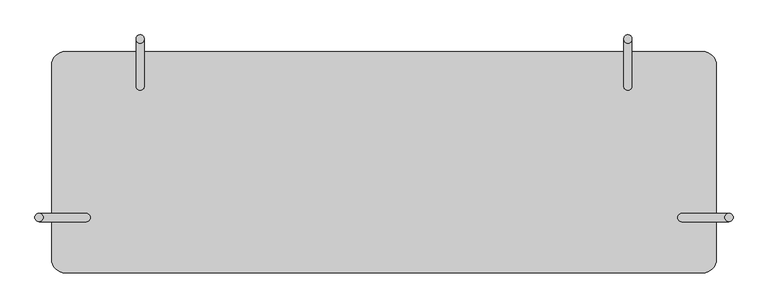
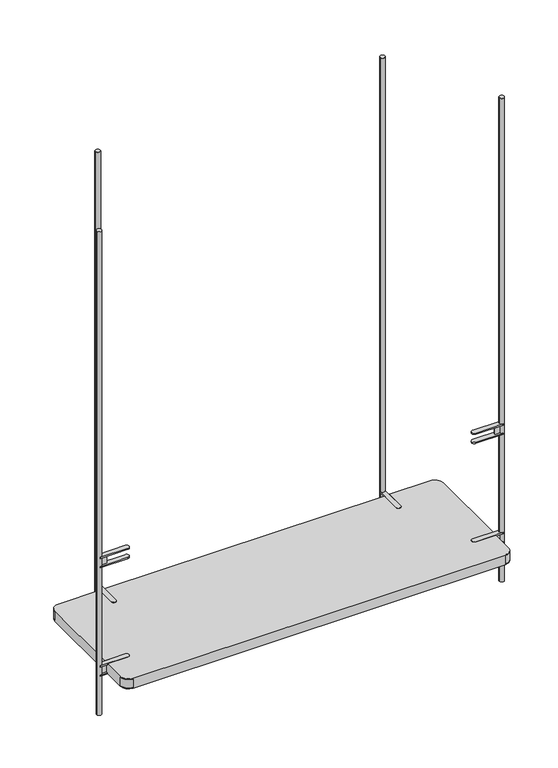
"""IFC4 building model written with IfcOpenShell, lengths in millimetres: furniture geometry, Shelving unit_Friendly : Shelving unit_Friendly."""

from ifc_helpers import new_model, si_unit, point, frame, frame_2d, origin, place, context, project, spatial, polyline, circle_curve, trimmed, segment, composite_curve, outline, extrude, source, transform, mapped, element, save
from ifc_brep_helpers import plane_surface, cylinder_surface, revolved_surface, advanced_brep


def furniture_1051e749(model_context):
    return source(origin(), model_context, "Body", "SolidModel", [
        extrude(outline(composite_curve([segment(trimmed(circle_curve(frame_2d((622.5, -330.0)), 7.5), [point((615.2715839, -328.0))], [point((615.2715839, -332.0))], True, "CARTESIAN"), True, "CONTINUOUS"), segment(polyline([(615.2715839, -332.0), (600.0, -332.0), (600.0, -328.0), (615.2715839, -328.0)]), True, "CONTINUOUS")], self_intersect=False)), frame((0.0, 0.0, 495.75), z_axis=(0.0, 0.0, 1.0), x_axis=(1.0, 0.0, 0.0)), (0.0, 0.0, 1.0), 26.0),
        extrude(outline(composite_curve([segment(polyline([(537.5, -322.5), (622.5, -322.5)]), True, "CONTINUOUS"), segment(trimmed(circle_curve(frame_2d((622.5, -330.0)), 7.5), [point((622.5, -322.5))], [point((622.5, -337.5))], True, "CARTESIAN"), True, "CONTINUOUS"), segment(polyline([(622.5, -337.5), (537.5, -337.5)]), True, "CONTINUOUS"), segment(trimmed(circle_curve(frame_2d((537.5, -330.0)), 7.5), [point((537.5, -337.5))], [point((537.5, -322.5))], False, "CARTESIAN"), True, "CONTINUOUS")], self_intersect=False)), frame((0.0, 0.0, 491.75), z_axis=(0.0, 0.0, 1.0), x_axis=(1.0, 0.0, 0.0)), (0.0, 0.0, 1.0), 4.0),
        extrude(outline(composite_curve([segment(polyline([(537.5, -322.5), (622.5, -322.5)]), True, "CONTINUOUS"), segment(trimmed(circle_curve(frame_2d((622.5, -330.0)), 7.5), [point((622.5, -322.5))], [point((622.5, -337.5))], True, "CARTESIAN"), True, "CONTINUOUS"), segment(polyline([(622.5, -337.5), (537.5, -337.5)]), True, "CONTINUOUS"), segment(trimmed(circle_curve(frame_2d((537.5, -330.0)), 7.5), [point((537.5, -337.5))], [point((537.5, -322.5))], False, "CARTESIAN"), True, "CONTINUOUS")], self_intersect=False)), frame((0.0, 0.0, 521.75), z_axis=(0.0, 0.0, 1.0), x_axis=(1.0, 0.0, 0.0)), (0.0, 0.0, 1.0), 4.0),
        extrude(outline(composite_curve([segment(polyline([(-615.2715839, -328.0), (-600.0, -328.0), (-600.0, -332.0), (-615.2715839, -332.0)]), True, "CONTINUOUS"), segment(trimmed(circle_curve(frame_2d((-622.5, -330.0)), 7.5), [point((-615.2715839, -332.0))], [point((-615.2715839, -328.0))], True, "CARTESIAN"), True, "CONTINUOUS")], self_intersect=False)), frame((0.0, 0.0, 495.75), z_axis=(0.0, 0.0, 1.0), x_axis=(1.0, 0.0, 0.0)), (0.0, 0.0, 1.0), 26.0),
        extrude(outline(composite_curve([segment(polyline([(-322.5, -537.5), (-322.5, -622.5)]), True, "CONTINUOUS"), segment(trimmed(circle_curve(frame_2d((-330.0, -622.5)), 7.5), [point((-322.5, -622.5))], [point((-337.5, -622.5))], True, "CARTESIAN"), True, "CONTINUOUS"), segment(polyline([(-337.5, -622.5), (-337.5, -537.5)]), True, "CONTINUOUS"), segment(trimmed(circle_curve(frame_2d((-330.0, -537.5)), 7.5), [point((-337.5, -537.5))], [point((-322.5, -537.5))], False, "CARTESIAN"), True, "CONTINUOUS")], self_intersect=False)), frame((0.0, 0.0, 495.75), z_axis=(0.0, 0.0, -1.0), x_axis=(0.0, 1.0, 0.0)), (0.0, 0.0, 1.0), 4.0),
        extrude(outline(composite_curve([segment(polyline([(-322.5, -537.5), (-322.5, -622.5)]), True, "CONTINUOUS"), segment(trimmed(circle_curve(frame_2d((-330.0, -622.5)), 7.5), [point((-322.5, -622.5))], [point((-337.5, -622.5))], True, "CARTESIAN"), True, "CONTINUOUS"), segment(polyline([(-337.5, -622.5), (-337.5, -537.5)]), True, "CONTINUOUS"), segment(trimmed(circle_curve(frame_2d((-330.0, -537.5)), 7.5), [point((-337.5, -537.5))], [point((-322.5, -537.5))], False, "CARTESIAN"), True, "CONTINUOUS")], self_intersect=False)), frame((0.0, 0.0, 525.75), z_axis=(0.0, 0.0, -1.0), x_axis=(0.0, 1.0, 0.0)), (0.0, 0.0, 1.0), 4.0),
        extrude(outline(composite_curve([segment(trimmed(circle_curve(frame_2d((440.0, -7.5)), 7.5), [point((438.0, -14.7284161))], [point((442.0, -14.7284161))], True, "CARTESIAN"), True, "CONTINUOUS"), segment(polyline([(442.0, -14.7284161), (442.0, -30.0), (438.0, -30.0), (438.0, -14.7284161)]), True, "CONTINUOUS")], self_intersect=False)), frame((0.0, 0.0, 141.0), z_axis=(0.0, 0.0, 1.0), x_axis=(1.0, 0.0, 0.0)), (0.0, 0.0, 1.0), 26.0),
        extrude(outline(composite_curve([segment(polyline([(432.5, -92.5), (432.5, -7.5)]), True, "CONTINUOUS"), segment(trimmed(circle_curve(frame_2d((440.0, -7.5)), 7.5), [point((432.5, -7.5))], [point((447.5, -7.5))], True, "CARTESIAN"), True, "CONTINUOUS"), segment(polyline([(447.5, -7.5), (447.5, -92.5)]), True, "CONTINUOUS"), segment(trimmed(circle_curve(frame_2d((440.0, -92.5)), 7.5), [point((447.5, -92.5))], [point((432.5, -92.5))], False, "CARTESIAN"), True, "CONTINUOUS")], self_intersect=False)), frame((0.0, 0.0, 137.0), z_axis=(0.0, 0.0, 1.0), x_axis=(1.0, 0.0, 0.0)), (0.0, 0.0, 1.0), 4.0),
        extrude(outline(composite_curve([segment(polyline([(432.5, -92.5), (432.5, -7.5)]), True, "CONTINUOUS"), segment(trimmed(circle_curve(frame_2d((440.0, -7.5)), 7.5), [point((432.5, -7.5))], [point((447.5, -7.5))], True, "CARTESIAN"), True, "CONTINUOUS"), segment(polyline([(447.5, -7.5), (447.5, -92.5)]), True, "CONTINUOUS"), segment(trimmed(circle_curve(frame_2d((440.0, -92.5)), 7.5), [point((447.5, -92.5))], [point((432.5, -92.5))], False, "CARTESIAN"), True, "CONTINUOUS")], self_intersect=False)), frame((0.0, 0.0, 167.0), z_axis=(0.0, 0.0, 1.0), x_axis=(1.0, 0.0, 0.0)), (0.0, 0.0, 1.0), 4.0),
        extrude(outline(composite_curve([segment(polyline([(-438.0, -14.7284161), (-438.0, -30.0), (-442.0, -30.0), (-442.0, -14.7284161)]), True, "CONTINUOUS"), segment(trimmed(circle_curve(frame_2d((-440.0, -7.5)), 7.5), [point((-442.0, -14.7284161))], [point((-438.0, -14.7284161))], True, "CARTESIAN"), True, "CONTINUOUS")], self_intersect=False)), frame((0.0, 0.0, 141.0), z_axis=(0.0, 0.0, 1.0), x_axis=(1.0, 0.0, 0.0)), (0.0, 0.0, 1.0), 26.0),
        extrude(outline(composite_curve([segment(polyline([(-92.5, -432.5), (-7.5, -432.5)]), True, "CONTINUOUS"), segment(trimmed(circle_curve(frame_2d((-7.5, -440.0)), 7.5), [point((-7.5, -432.5))], [point((-7.5, -447.5))], True, "CARTESIAN"), True, "CONTINUOUS"), segment(polyline([(-7.5, -447.5), (-92.5, -447.5)]), True, "CONTINUOUS"), segment(trimmed(circle_curve(frame_2d((-92.5, -440.0)), 7.5), [point((-92.5, -447.5))], [point((-92.5, -432.5))], False, "CARTESIAN"), True, "CONTINUOUS")], self_intersect=False)), frame((0.0, 0.0, 141.0), z_axis=(0.0, 0.0, -1.0), x_axis=(0.0, 1.0, 0.0)), (0.0, 0.0, 1.0), 4.0),
        extrude(outline(composite_curve([segment(polyline([(-92.5, -432.5), (-7.5, -432.5)]), True, "CONTINUOUS"), segment(trimmed(circle_curve(frame_2d((-7.5, -440.0)), 7.5), [point((-7.5, -432.5))], [point((-7.5, -447.5))], True, "CARTESIAN"), True, "CONTINUOUS"), segment(polyline([(-7.5, -447.5), (-92.5, -447.5)]), True, "CONTINUOUS"), segment(trimmed(circle_curve(frame_2d((-92.5, -440.0)), 7.5), [point((-92.5, -447.5))], [point((-92.5, -432.5))], False, "CARTESIAN"), True, "CONTINUOUS")], self_intersect=False)), frame((0.0, 0.0, 171.0), z_axis=(0.0, 0.0, -1.0), x_axis=(0.0, 1.0, 0.0)), (0.0, 0.0, 1.0), 4.0),
        extrude(outline(composite_curve([segment(trimmed(circle_curve(frame_2d((622.5, -330.0)), 7.5), [point((615.2715839, -328.0))], [point((615.2715839, -332.0))], True, "CARTESIAN"), True, "CONTINUOUS"), segment(polyline([(615.2715839, -332.0), (600.0, -332.0), (600.0, -328.0), (615.2715839, -328.0)]), True, "CONTINUOUS")], self_intersect=False)), frame((0.0, 0.0, 141.0), z_axis=(0.0, 0.0, 1.0), x_axis=(1.0, 0.0, 0.0)), (0.0, 0.0, 1.0), 26.0),
        extrude(outline(composite_curve([segment(polyline([(537.5, -322.5), (622.5, -322.5)]), True, "CONTINUOUS"), segment(trimmed(circle_curve(frame_2d((622.5, -330.0)), 7.5), [point((622.5, -322.5))], [point((622.5, -337.5))], True, "CARTESIAN"), True, "CONTINUOUS"), segment(polyline([(622.5, -337.5), (537.5, -337.5)]), True, "CONTINUOUS"), segment(trimmed(circle_curve(frame_2d((537.5, -330.0)), 7.5), [point((537.5, -337.5))], [point((537.5, -322.5))], False, "CARTESIAN"), True, "CONTINUOUS")], self_intersect=False)), frame((0.0, 0.0, 137.0), z_axis=(0.0, 0.0, 1.0), x_axis=(1.0, 0.0, 0.0)), (0.0, 0.0, 1.0), 4.0),
        extrude(outline(composite_curve([segment(polyline([(537.5, -322.5), (622.5, -322.5)]), True, "CONTINUOUS"), segment(trimmed(circle_curve(frame_2d((622.5, -330.0)), 7.5), [point((622.5, -322.5))], [point((622.5, -337.5))], True, "CARTESIAN"), True, "CONTINUOUS"), segment(polyline([(622.5, -337.5), (537.5, -337.5)]), True, "CONTINUOUS"), segment(trimmed(circle_curve(frame_2d((537.5, -330.0)), 7.5), [point((537.5, -337.5))], [point((537.5, -322.5))], False, "CARTESIAN"), True, "CONTINUOUS")], self_intersect=False)), frame((0.0, 0.0, 167.0), z_axis=(0.0, 0.0, 1.0), x_axis=(1.0, 0.0, 0.0)), (0.0, 0.0, 1.0), 4.0),
        extrude(outline(composite_curve([segment(polyline([(-615.2715839, -328.0), (-600.0, -328.0), (-600.0, -332.0), (-615.2715839, -332.0)]), True, "CONTINUOUS"), segment(trimmed(circle_curve(frame_2d((-622.5, -330.0)), 7.5), [point((-615.2715839, -332.0))], [point((-615.2715839, -328.0))], True, "CARTESIAN"), True, "CONTINUOUS")], self_intersect=False)), frame((0.0, 0.0, 141.0), z_axis=(0.0, 0.0, 1.0), x_axis=(1.0, 0.0, 0.0)), (0.0, 0.0, 1.0), 26.0),
        advanced_brep(
        [(600.0, -337.5, 167.0), (600.0, -322.5, 167.0), (537.5, -322.5, 167.0), (537.5, -337.5, 167.0), (447.5, -30.0, 167.0), (432.5, -30.0, 167.0), (432.5, -92.5, 167.0), (447.5, -92.5, 167.0), (-432.5, -30.0, 167.0), (-447.5, -30.0, 167.0), (-447.5, -92.5, 167.0), (-432.5, -92.5, 167.0), (-600.0, -322.5, 167.0), (-600.0, -337.5, 167.0), (-537.5, -337.5, 167.0), (-537.5, -322.5, 167.0), (-600.0, -337.5, 141.0), (-600.0, -322.5, 141.0), (-537.5, -322.5, 141.0), (-537.5, -337.5, 141.0), (432.5, -30.0, 141.0), (447.5, -30.0, 141.0), (447.5, -92.5, 141.0), (432.5, -92.5, 141.0), (-447.5, -30.0, 141.0), (-432.5, -30.0, 141.0), (-432.5, -92.5, 141.0), (-447.5, -92.5, 141.0), (600.0, -322.5, 141.0), (600.0, -337.5, 141.0), (537.5, -337.5, 141.0), (537.5, -322.5, 141.0), (-600.0, -405.0, 167.0), (-600.0, -405.0, 141.0), (-575.0, -430.0, 141.0), (-575.0, -430.0, 167.0), (-575.0, -430.0, 138.0), (575.0, -430.0, 138.0), (575.0, -430.0, 141.0), (575.0, -430.0, 167.0), (575.0, -430.0, 170.0), (-575.0, -430.0, 170.0), (600.0, -405.0, 141.0), (600.0, -405.0, 167.0), (600.0, -405.0, 138.0), (600.0, -337.5, 138.0), (600.0, -322.5, 138.0), (600.0, -55.0, 138.0), (600.0, -55.0, 141.0), (600.0, -55.0, 167.0), (600.0, -55.0, 170.0), (600.0, -322.5, 170.0), (600.0, -337.5, 170.0), (600.0, -405.0, 170.0), (575.0, -30.0, 141.0), (575.0, -30.0, 167.0), (575.0, -30.0, 138.0), (447.5, -30.0, 138.0), (432.5, -30.0, 138.0), (-432.5, -30.0, 138.0), (-447.5, -30.0, 138.0), (-575.0, -30.0, 138.0), (-575.0, -30.0, 141.0), (-575.0, -30.0, 167.0), (-575.0, -30.0, 170.0), (-447.5, -30.0, 170.0), (-432.5, -30.0, 170.0), (432.5, -30.0, 170.0), (447.5, -30.0, 170.0), (575.0, -30.0, 170.0), (-600.0, -55.0, 141.0), (-600.0, -55.0, 167.0), (-600.0, -405.0, 170.0), (-600.0, -337.5, 170.0), (-600.0, -322.5, 170.0), (-600.0, -55.0, 170.0), (-600.0, -55.0, 138.0), (-600.0, -322.5, 138.0), (-600.0, -337.5, 138.0), (-600.0, -405.0, 138.0), (537.5, -337.5, 170.0), (537.5, -322.5, 170.0), (447.5, -92.5, 170.0), (432.5, -92.5, 170.0), (-432.5, -92.5, 170.0), (-447.5, -92.5, 170.0), (-537.5, -322.5, 170.0), (-537.5, -337.5, 170.0), (-537.5, -337.5, 138.0), (-537.5, -322.5, 138.0), (-447.5, -92.5, 138.0), (-432.5, -92.5, 138.0), (432.5, -92.5, 138.0), (447.5, -92.5, 138.0), (537.5, -322.5, 138.0), (537.5, -337.5, 138.0)],
        [
            (0, 1),
            (1, 2),
            (2, 3, circle_curve(frame((537.5, -330.0, 167.0), z_axis=(0.0, 0.0, 1.0), x_axis=(1.0, 0.0, 0.0)), 7.5)),
            (3, 0),
            (4, 5),
            (5, 6),
            (6, 7, circle_curve(frame((440.0, -92.5, 167.0), z_axis=(0.0, 0.0, 1.0), x_axis=(1.0, 0.0, 0.0)), 7.5)),
            (7, 4),
            (8, 9),
            (9, 10),
            (10, 11, circle_curve(frame((-440.0, -92.5, 167.0), z_axis=(0.0, 0.0, 1.0), x_axis=(1.0, 0.0, 0.0)), 7.5)),
            (11, 8),
            (12, 13),
            (13, 14),
            (14, 15, circle_curve(frame((-537.5, -330.0, 167.0), z_axis=(0.0, 0.0, 1.0), x_axis=(1.0, 0.0, 0.0)), 7.5)),
            (15, 12),
            (16, 17),
            (17, 18),
            (18, 19, circle_curve(frame((-537.5, -330.0, 141.0), z_axis=(0.0, 0.0, -1.0), x_axis=(1.0, 0.0, 0.0)), 7.5)),
            (19, 16),
            (20, 21),
            (21, 22),
            (22, 23, circle_curve(frame((440.0, -92.5, 141.0), z_axis=(0.0, 0.0, -1.0), x_axis=(1.0, 0.0, 0.0)), 7.5)),
            (23, 20),
            (24, 25),
            (25, 26),
            (26, 27, circle_curve(frame((-440.0, -92.5, 141.0), z_axis=(0.0, 0.0, -1.0), x_axis=(1.0, 0.0, 0.0)), 7.5)),
            (27, 24),
            (28, 29),
            (29, 30),
            (30, 31, circle_curve(frame((537.5, -330.0, 141.0), z_axis=(0.0, 0.0, -1.0), x_axis=(1.0, 0.0, 0.0)), 7.5)),
            (31, 28),
            (32, 33),
            (33, 34, circle_curve(frame((-575.0, -405.0, 141.0), z_axis=(0.0, 0.0, 1.0), x_axis=(1.0, 0.0, 0.0)), 25.0)),
            (34, 35),
            (35, 32, circle_curve(frame((-575.0, -405.0, 167.0), z_axis=(0.0, 0.0, -1.0), x_axis=(1.0, 0.0, 0.0)), 25.0)),
            (34, 36),
            (36, 37),
            (37, 38),
            (38, 39),
            (39, 40),
            (40, 41),
            (41, 35),
            (38, 42, circle_curve(frame((575.0, -405.0, 141.0), z_axis=(0.0, 0.0, 1.0), x_axis=(1.0, 0.0, 0.0)), 25.0)),
            (42, 43),
            (43, 39, circle_curve(frame((575.0, -405.0, 167.0), z_axis=(0.0, 0.0, -1.0), x_axis=(1.0, 0.0, 0.0)), 25.0)),
            (42, 44),
            (44, 45),
            (45, 29),
            (28, 46),
            (46, 47),
            (47, 48),
            (48, 49),
            (49, 50),
            (50, 51),
            (51, 1),
            (0, 52),
            (52, 53),
            (53, 43),
            (48, 54, circle_curve(frame((575.0, -55.0, 141.0), z_axis=(0.0, 0.0, 1.0), x_axis=(1.0, 0.0, 0.0)), 25.0)),
            (54, 55),
            (55, 49, circle_curve(frame((575.0, -55.0, 167.0), z_axis=(0.0, 0.0, -1.0), x_axis=(1.0, 0.0, 0.0)), 25.0)),
            (54, 56),
            (56, 57),
            (57, 21),
            (20, 58),
            (58, 59),
            (59, 25),
            (24, 60),
            (60, 61),
            (61, 62),
            (62, 63),
            (63, 64),
            (64, 65),
            (65, 9),
            (8, 66),
            (66, 67),
            (67, 5),
            (4, 68),
            (68, 69),
            (69, 55),
            (62, 70, circle_curve(frame((-575.0, -55.0, 141.0), z_axis=(0.0, 0.0, 1.0), x_axis=(1.0, 0.0, 0.0)), 25.0)),
            (70, 71),
            (71, 63, circle_curve(frame((-575.0, -55.0, 167.0), z_axis=(0.0, 0.0, -1.0), x_axis=(1.0, 0.0, 0.0)), 25.0)),
            (32, 72),
            (72, 73),
            (73, 13),
            (12, 74),
            (74, 75),
            (75, 71),
            (70, 76),
            (76, 77),
            (77, 17),
            (16, 78),
            (78, 79),
            (79, 33),
            (40, 53, circle_curve(frame((575.0, -405.0, 170.0), z_axis=(0.0, 0.0, 1.0), x_axis=(1.0, 0.0, 0.0)), 25.0)),
            (52, 80),
            (80, 81, circle_curve(frame((537.5, -330.0, 170.0), z_axis=(0.0, 0.0, -1.0), x_axis=(1.0, 0.0, 0.0)), 7.5)),
            (81, 51),
            (50, 69, circle_curve(frame((575.0, -55.0, 170.0), z_axis=(0.0, 0.0, 1.0), x_axis=(1.0, 0.0, 0.0)), 25.0)),
            (68, 82),
            (82, 83, circle_curve(frame((440.0, -92.5, 170.0), z_axis=(0.0, 0.0, -1.0), x_axis=(1.0, 0.0, 0.0)), 7.5)),
            (83, 67),
            (66, 84),
            (84, 85, circle_curve(frame((-440.0, -92.5, 170.0), z_axis=(0.0, 0.0, -1.0), x_axis=(1.0, 0.0, 0.0)), 7.5)),
            (85, 65),
            (64, 75, circle_curve(frame((-575.0, -55.0, 170.0), z_axis=(0.0, 0.0, 1.0), x_axis=(1.0, 0.0, 0.0)), 25.0)),
            (74, 86),
            (86, 87, circle_curve(frame((-537.5, -330.0, 170.0), z_axis=(0.0, 0.0, -1.0), x_axis=(1.0, 0.0, 0.0)), 7.5)),
            (87, 73),
            (72, 41, circle_curve(frame((-575.0, -405.0, 170.0), z_axis=(0.0, 0.0, 1.0), x_axis=(1.0, 0.0, 0.0)), 25.0)),
            (15, 86),
            (87, 14),
            (3, 80),
            (2, 81),
            (7, 82),
            (6, 83),
            (11, 84),
            (10, 85),
            (36, 79, circle_curve(frame((-575.0, -405.0, 138.0), z_axis=(0.0, 0.0, -1.0), x_axis=(1.0, 0.0, 0.0)), 25.0)),
            (78, 88),
            (88, 89, circle_curve(frame((-537.5, -330.0, 138.0), z_axis=(0.0, 0.0, 1.0), x_axis=(1.0, 0.0, 0.0)), 7.5)),
            (89, 77),
            (76, 61, circle_curve(frame((-575.0, -55.0, 138.0), z_axis=(0.0, 0.0, -1.0), x_axis=(1.0, 0.0, 0.0)), 25.0)),
            (60, 90),
            (90, 91, circle_curve(frame((-440.0, -92.5, 138.0), z_axis=(0.0, 0.0, 1.0), x_axis=(1.0, 0.0, 0.0)), 7.5)),
            (91, 59),
            (58, 92),
            (92, 93, circle_curve(frame((440.0, -92.5, 138.0), z_axis=(0.0, 0.0, 1.0), x_axis=(1.0, 0.0, 0.0)), 7.5)),
            (93, 57),
            (56, 47, circle_curve(frame((575.0, -55.0, 138.0), z_axis=(0.0, 0.0, -1.0), x_axis=(1.0, 0.0, 0.0)), 25.0)),
            (46, 94),
            (94, 95, circle_curve(frame((537.5, -330.0, 138.0), z_axis=(0.0, 0.0, 1.0), x_axis=(1.0, 0.0, 0.0)), 7.5)),
            (95, 45),
            (44, 37, circle_curve(frame((575.0, -405.0, 138.0), z_axis=(0.0, 0.0, -1.0), x_axis=(1.0, 0.0, 0.0)), 25.0)),
            (89, 18),
            (19, 88),
            (95, 30),
            (94, 31),
            (93, 22),
            (92, 23),
            (91, 26),
            (90, 27),
        ],
        [
            plane_surface(frame((-550.0, -405.0, 167.0), z_axis=(0.0, 0.0, 1.0), x_axis=(0.0, 1.0, 0.0))),
            plane_surface(frame((-550.0, -405.0, 141.0), z_axis=(0.0, 0.0, -1.0), x_axis=(0.0, -1.0, 0.0))),
            cylinder_surface(frame((-575.0, -405.0, 141.0), z_axis=(0.0, 0.0, 1.0), x_axis=(1.0, 0.0, 0.0)), 25.0),
            plane_surface(frame((-575.0, -430.0, 167.0), z_axis=(0.0, -1.0, 0.0), x_axis=(0.0, 0.0, -1.0))),
            cylinder_surface(frame((575.0, -405.0, 141.0), z_axis=(0.0, 0.0, 1.0), x_axis=(1.0, 0.0, 0.0)), 25.0),
            plane_surface(frame((600.0, -405.0, 167.0), z_axis=(1.0, 0.0, 0.0), x_axis=(0.0, 0.0, -1.0))),
            cylinder_surface(frame((575.0, -55.0, 141.0), z_axis=(0.0, 0.0, 1.0), x_axis=(1.0, 0.0, 0.0)), 25.0),
            plane_surface(frame((575.0, -30.0, 167.0), z_axis=(0.0, 1.0, 0.0), x_axis=(0.0, 0.0, -1.0))),
            cylinder_surface(frame((-575.0, -55.0, 141.0), z_axis=(0.0, 0.0, 1.0), x_axis=(1.0, 0.0, 0.0)), 25.0),
            plane_surface(frame((-600.0, -55.0, 167.0), z_axis=(-1.0, 0.0, 0.0), x_axis=(0.0, 0.0, -1.0))),
            plane_surface(frame((1453.4151526, -430.0, 170.0), z_axis=(0.0, 0.0, 1.0), x_axis=(1.0, 0.0, 0.0))),
            cylinder_surface(frame((575.0, -405.0, 167.0), z_axis=(0.0, 0.0, 1.0), x_axis=(1.0, 0.0, 0.0)), 25.0),
            cylinder_surface(frame((575.0, -55.0, 167.0), z_axis=(0.0, 0.0, 1.0), x_axis=(1.0, 0.0, 0.0)), 25.0),
            cylinder_surface(frame((-575.0, -55.0, 167.0), z_axis=(0.0, 0.0, 1.0), x_axis=(1.0, 0.0, 0.0)), 25.0),
            cylinder_surface(frame((-575.0, -405.0, 167.0), z_axis=(0.0, 0.0, 1.0), x_axis=(1.0, 0.0, 0.0)), 25.0),
            plane_surface(frame((-600.0, -322.5, 170.0), z_axis=(0.0, -1.0, 0.0), x_axis=(0.0, 0.0, -1.0))),
            plane_surface(frame((-537.5, -337.5, 170.0), z_axis=(0.0, 1.0, 0.0), x_axis=(0.0, 0.0, -1.0))),
            revolved_surface(polyline([(-530.0, -330.0, 167.0), (-530.0, -330.0, 170.0)]), (-537.5, -330.0, 167.0), (0.0, 0.0, -1.0)),
            plane_surface(frame((600.0, -337.5, 170.0), z_axis=(0.0, 1.0, 0.0), x_axis=(0.0, 0.0, -1.0))),
            revolved_surface(polyline([(545.0, -330.0, 167.0), (545.0, -330.0, 170.0)]), (537.5, -330.0, 167.0), (0.0, 0.0, -1.0)),
            plane_surface(frame((537.5, -322.5, 170.0), z_axis=(0.0, -1.0, 0.0), x_axis=(0.0, 0.0, -1.0))),
            plane_surface(frame((447.5, -30.0, 170.0), z_axis=(-1.0, 0.0, 0.0), x_axis=(0.0, 0.0, -1.0))),
            revolved_surface(polyline([(447.5, -92.5, 167.0), (447.5, -92.5, 170.0)]), (440.0, -92.5, 167.0), (0.0, 0.0, -1.0)),
            plane_surface(frame((432.5, -92.5, 170.0), z_axis=(1.0, 0.0, 0.0), x_axis=(0.0, 0.0, -1.0))),
            plane_surface(frame((-432.5, -30.0, 170.0), z_axis=(-1.0, 0.0, 0.0), x_axis=(0.0, 0.0, -1.0))),
            revolved_surface(polyline([(-432.5, -92.5, 167.0), (-432.5, -92.5, 170.0)]), (-440.0, -92.5, 167.0), (0.0, 0.0, -1.0)),
            plane_surface(frame((-447.5, -92.5, 170.0), z_axis=(1.0, 0.0, 0.0), x_axis=(0.0, 0.0, -1.0))),
            plane_surface(frame((1453.4151526, -430.0, 138.0), z_axis=(0.0, 0.0, -1.0), x_axis=(-1.0, 0.0, 0.0))),
            cylinder_surface(frame((575.0, -405.0, 138.0), z_axis=(0.0, 0.0, 1.0), x_axis=(1.0, 0.0, 0.0)), 25.0),
            cylinder_surface(frame((575.0, -55.0, 138.0), z_axis=(0.0, 0.0, 1.0), x_axis=(1.0, 0.0, 0.0)), 25.0),
            cylinder_surface(frame((-575.0, -55.0, 138.0), z_axis=(0.0, 0.0, 1.0), x_axis=(1.0, 0.0, 0.0)), 25.0),
            cylinder_surface(frame((-575.0, -405.0, 138.0), z_axis=(0.0, 0.0, 1.0), x_axis=(1.0, 0.0, 0.0)), 25.0),
            plane_surface(frame((-600.0, -322.5, 141.0), z_axis=(0.0, -1.0, 0.0), x_axis=(0.0, 0.0, -1.0))),
            plane_surface(frame((-537.5, -337.5, 141.0), z_axis=(0.0, 1.0, 0.0), x_axis=(0.0, 0.0, -1.0))),
            revolved_surface(polyline([(-530.0, -330.0, 138.0), (-530.0, -330.0, 141.0)]), (-537.5, -330.0, 138.0), (0.0, 0.0, -1.0)),
            plane_surface(frame((600.0, -337.5, 141.0), z_axis=(0.0, 1.0, 0.0), x_axis=(0.0, 0.0, -1.0))),
            revolved_surface(polyline([(545.0, -330.0, 138.0), (545.0, -330.0, 141.0)]), (537.5, -330.0, 138.0), (0.0, 0.0, -1.0)),
            plane_surface(frame((537.5, -322.5, 141.0), z_axis=(0.0, -1.0, 0.0), x_axis=(0.0, 0.0, -1.0))),
            plane_surface(frame((447.5, -30.0, 141.0), z_axis=(-1.0, 0.0, 0.0), x_axis=(0.0, 0.0, -1.0))),
            revolved_surface(polyline([(447.5, -92.5, 138.0), (447.5, -92.5, 141.0)]), (440.0, -92.5, 138.0), (0.0, 0.0, -1.0)),
            plane_surface(frame((432.5, -92.5, 141.0), z_axis=(1.0, 0.0, 0.0), x_axis=(0.0, 0.0, -1.0))),
            plane_surface(frame((-432.5, -30.0, 141.0), z_axis=(-1.0, 0.0, 0.0), x_axis=(0.0, 0.0, -1.0))),
            revolved_surface(polyline([(-432.5, -92.5, 138.0), (-432.5, -92.5, 141.0)]), (-440.0, -92.5, 138.0), (0.0, 0.0, -1.0)),
            plane_surface(frame((-447.5, -92.5, 141.0), z_axis=(1.0, 0.0, 0.0), x_axis=(0.0, 0.0, -1.0))),
        ],
        [
            (0, [[1, 2, 3, 4]]),
            (0, [[5, 6, 7, 8]]),
            (0, [[9, 10, 11, 12]]),
            (0, [[13, 14, 15, 16]]),
            (1, [[17, 18, 19, 20]]),
            (1, [[21, 22, 23, 24]]),
            (1, [[25, 26, 27, 28]]),
            (1, [[29, 30, 31, 32]]),
            (2, [[33, 34, 35, 36]]),
            (3, [[-35, 37, 38, 39, 40, 41, 42, 43]]),
            (4, [[-40, 44, 45, 46]]),
            (5, [[-45, 47, 48, 49, -29, 50, 51, 52, 53, 54, 55, 56, -1, 57, 58, 59]]),
            (6, [[-53, 60, 61, 62]]),
            (7, [[-61, 63, 64, 65, -21, 66, 67, 68, -25, 69, 70, 71, 72, 73, 74, 75, -9, 76, 77, 78, -5, 79, 80, 81]]),
            (8, [[-72, 82, 83, 84]]),
            (9, [[-33, 85, 86, 87, -13, 88, 89, 90, -83, 91, 92, 93, -17, 94, 95, 96]]),
            (10, [[-42, 97, -58, 98, 99, 100, -55, 101, -80, 102, 103, 104, -77, 105, 106, 107, -74, 108, -89, 109, 110, 111, -86, 112]]),
            (11, [[-97, -41, -46, -59]]),
            (12, [[-101, -54, -62, -81]]),
            (13, [[-108, -73, -84, -90]]),
            (14, [[-112, -85, -36, -43]]),
            (15, [[-109, -88, -16, 113]]),
            (16, [[-111, 114, -14, -87]]),
            (17, [[-110, -113, -15, -114]]),
            (18, [[-98, -57, -4, 115]]),
            (19, [[-99, -115, -3, 116]]),
            (20, [[-100, -116, -2, -56]]),
            (21, [[-102, -79, -8, 117]]),
            (22, [[-103, -117, -7, 118]]),
            (23, [[-104, -118, -6, -78]]),
            (24, [[-105, -76, -12, 119]]),
            (25, [[-106, -119, -11, 120]]),
            (26, [[-107, -120, -10, -75]]),
            (27, [[121, -95, 122, 123, 124, -92, 125, -70, 126, 127, 128, -67, 129, 130, 131, -64, 132, -51, 133, 134, 135, -48, 136, -38]]),
            (28, [[-136, -47, -44, -39]]),
            (29, [[-132, -63, -60, -52]]),
            (30, [[-125, -91, -82, -71]]),
            (31, [[-121, -37, -34, -96]]),
            (32, [[-124, 137, -18, -93]]),
            (33, [[-122, -94, -20, 138]]),
            (34, [[-123, -138, -19, -137]]),
            (35, [[-135, 139, -30, -49]]),
            (36, [[-134, 140, -31, -139]]),
            (37, [[-133, -50, -32, -140]]),
            (38, [[-131, 141, -22, -65]]),
            (39, [[-130, 142, -23, -141]]),
            (40, [[-129, -66, -24, -142]]),
            (41, [[-128, 143, -26, -68]]),
            (42, [[-127, 144, -27, -143]]),
            (43, [[-126, -69, -28, -144]]),
        ],
    ),
        extrude(outline(composite_curve([segment(polyline([(-322.5, -537.5), (-322.5, -622.5)]), True, "CONTINUOUS"), segment(trimmed(circle_curve(frame_2d((-330.0, -622.5)), 7.5), [point((-322.5, -622.5))], [point((-337.5, -622.5))], True, "CARTESIAN"), True, "CONTINUOUS"), segment(polyline([(-337.5, -622.5), (-337.5, -537.5)]), True, "CONTINUOUS"), segment(trimmed(circle_curve(frame_2d((-330.0, -537.5)), 7.5), [point((-337.5, -537.5))], [point((-322.5, -537.5))], False, "CARTESIAN"), True, "CONTINUOUS")], self_intersect=False)), frame((0.0, 0.0, 141.0), z_axis=(0.0, 0.0, -1.0), x_axis=(0.0, 1.0, 0.0)), (0.0, 0.0, 1.0), 4.0),
        extrude(outline(composite_curve([segment(polyline([(-322.5, -537.5), (-322.5, -622.5)]), True, "CONTINUOUS"), segment(trimmed(circle_curve(frame_2d((-330.0, -622.5)), 7.5), [point((-322.5, -622.5))], [point((-337.5, -622.5))], True, "CARTESIAN"), True, "CONTINUOUS"), segment(polyline([(-337.5, -622.5), (-337.5, -537.5)]), True, "CONTINUOUS"), segment(trimmed(circle_curve(frame_2d((-330.0, -537.5)), 7.5), [point((-337.5, -537.5))], [point((-322.5, -537.5))], False, "CARTESIAN"), True, "CONTINUOUS")], self_intersect=False)), frame((0.0, 0.0, 171.0), z_axis=(0.0, 0.0, -1.0), x_axis=(0.0, 1.0, 0.0)), (0.0, 0.0, 1.0), 4.0),
        extrude(outline(composite_curve([segment(trimmed(circle_curve(frame_2d((-440.0, -7.5)), 7.5), [point((-447.5, -7.5))], [point((-432.5, -7.5))], False, "CARTESIAN"), True, "CONTINUOUS"), segment(trimmed(circle_curve(frame_2d((-440.0, -7.5)), 7.5), [point((-432.5, -7.5))], [point((-447.5, -7.5))], False, "CARTESIAN"), True, "CONTINUOUS")], self_intersect=False)), frame((0.0, 0.0, 10.0), z_axis=(0.0, 0.0, 1.0), x_axis=(1.0, 0.0, 0.0)), (0.0, 0.0, 1.0), 1580.0),
        extrude(outline(composite_curve([segment(trimmed(circle_curve(frame_2d((440.0, -7.5)), 7.5), [point((432.5, -7.5))], [point((447.5, -7.5))], False, "CARTESIAN"), True, "CONTINUOUS"), segment(trimmed(circle_curve(frame_2d((440.0, -7.5)), 7.5), [point((447.5, -7.5))], [point((432.5, -7.5))], False, "CARTESIAN"), True, "CONTINUOUS")], self_intersect=False)), frame((0.0, 0.0, 10.0), z_axis=(0.0, 0.0, 1.0), x_axis=(1.0, 0.0, 0.0)), (0.0, 0.0, 1.0), 1580.0),
        extrude(outline(composite_curve([segment(trimmed(circle_curve(frame_2d((-622.5, -330.0)), 7.5), [point((-630.0, -330.0))], [point((-615.0, -330.0))], False, "CARTESIAN"), True, "CONTINUOUS"), segment(trimmed(circle_curve(frame_2d((-622.5, -330.0)), 7.5), [point((-615.0, -330.0))], [point((-630.0, -330.0))], False, "CARTESIAN"), True, "CONTINUOUS")], self_intersect=False)), frame((0.0, 0.0, 10.0), z_axis=(0.0, 0.0, 1.0), x_axis=(1.0, 0.0, 0.0)), (0.0, 0.0, 1.0), 1580.0),
        extrude(outline(composite_curve([segment(trimmed(circle_curve(frame_2d((622.5, -330.0)), 7.5), [point((615.0, -330.0))], [point((630.0, -330.0))], False, "CARTESIAN"), True, "CONTINUOUS"), segment(trimmed(circle_curve(frame_2d((622.5, -330.0)), 7.5), [point((630.0, -330.0))], [point((615.0, -330.0))], False, "CARTESIAN"), True, "CONTINUOUS")], self_intersect=False)), frame((0.0, 0.0, 10.0), z_axis=(0.0, 0.0, 1.0), x_axis=(1.0, 0.0, 0.0)), (0.0, 0.0, 1.0), 1580.0),
    ])


if __name__ == "__main__":
    model = new_model("IFC4")
    model_context = context("Model", 3, world=origin())
    ifc_project = project(units=[si_unit("LENGTHUNIT", "METRE", prefix="MILLI")], contexts=[model_context])
    site = spatial("IfcSite", under=ifc_project)
    building = spatial("IfcBuilding", under=site)
    placement = place(None, origin())
    furniture_shape = furniture_1051e749(model_context)
    element("IfcFurniture", 1, ObjectType="Shelving unit_Friendly : Shelving unit_Friendly", at=placement, inside=building, context=model_context, shape_type="MappedRepresentation", body=[
        mapped(furniture_shape, transform((0.0, 0.0, 0.0), x_axis=(1.0, 0.0, 0.0), y_axis=(0.0, 1.0, 0.0), z_axis=(0.0, 0.0, 1.0))),
    ])
    save(model, "model.ifc")
